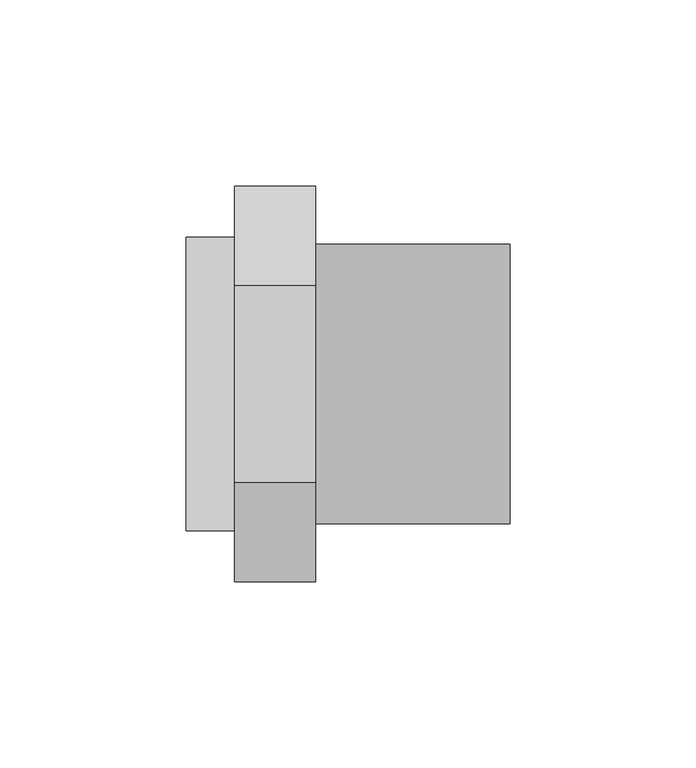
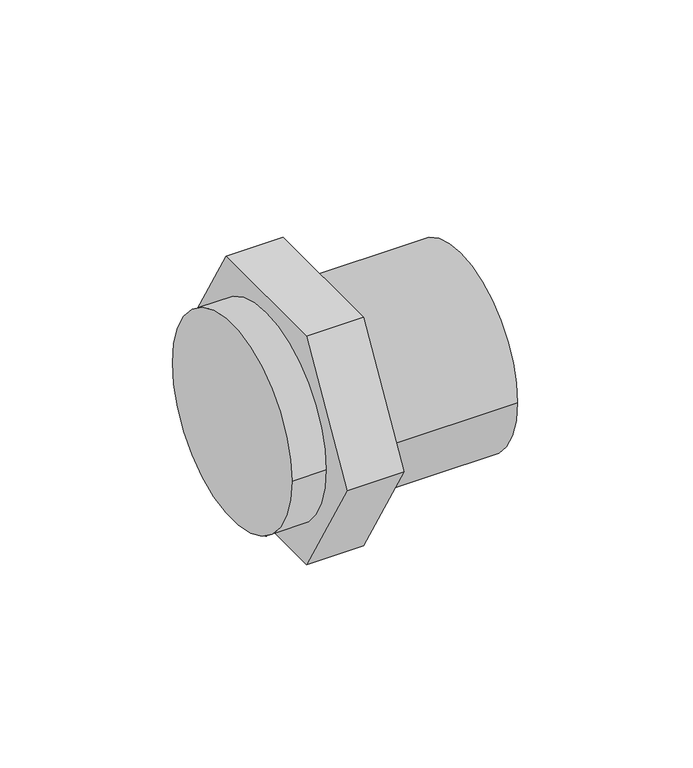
"""IFC4 building model written with IfcOpenShell, lengths in millimetres: pipe fitting geometry, 01101008 : Uniões múltiplas F/M/F."""

import ifcopenshell
import ifcopenshell.guid

model = None  # the IFC model being written
_history = None  # IfcOwnerHistory: only IFC2X3 demands one
_inside = {}  # id of a spatial element -> (the spatial element, [elements in it])
_under = {}  # id of a project, library or spatial element -> (it, [spatial elements below it])
_declared = {}  # id of a project -> (the project, [libraries it declares])
_typed = {}  # id of a type object -> (the type object, [elements of that type])
_made_of = {}  # id of a material, layer set ... -> (it, [elements and type objects made of it])


def new_model(schema):
    """Start an empty IFC model of exactly this schema.

    Asked for "IFC4X3", IfcOpenShell would pick the latest addendum, in which some entities
    have other attributes; the version numbers below select the first issue.
    IFC2X3 requires an IfcOwnerHistory on every rooted entity: one is made here for all.
    """
    global model, _history
    if schema == "IFC4X3":
        model = ifcopenshell.file(schema_version=(4, 3, 0, 0))
    else:
        model = ifcopenshell.file(schema=schema)
    _inside.clear()
    _under.clear()
    _declared.clear()
    _typed.clear()
    _made_of.clear()
    _history = None
    if model.schema == "IFC2X3":
        org = make("IfcOrganization", Name="unknown")
        user = make(
            "IfcPersonAndOrganization",
            ThePerson=make("IfcPerson", FamilyName="unknown"),
            TheOrganization=org,
        )
        app = make(
            "IfcApplication",
            ApplicationDeveloper=org,
            Version="unknown",
            ApplicationFullName="unknown",
            ApplicationIdentifier="unknown",
        )
        _history = make(
            "IfcOwnerHistory",
            OwningUser=user,
            OwningApplication=app,
            ChangeAction="ADDED",
            CreationDate=0,
        )
    return model


def make(cls, **values):
    """One entity of the class cls with the attributes given. An attribute that is None is left unset."""
    return model.create_entity(
        cls, **{name: value for name, value in values.items() if value is not None}
    )


def rooted(cls, **values):
    """An entity with a GlobalId (a new one), such as an element, a storey or a relation."""
    return make(cls, GlobalId=ifcopenshell.guid.new(), OwnerHistory=_history, **values)


def si_unit(unit_type, name, prefix=None):
    """IfcSIUnit, for example si_unit("LENGTHUNIT", "METRE", prefix="MILLI")."""
    return make("IfcSIUnit", UnitType=unit_type, Prefix=prefix, Name=name)


def assignment(units):
    """IfcUnitAssignment: the units of a project."""
    return None if units is None else make("IfcUnitAssignment", Units=units)


def point(xyz):
    """IfcCartesianPoint."""
    return None if xyz is None else make("IfcCartesianPoint", Coordinates=xyz)


def direction(xyz):
    """IfcDirection."""
    return None if xyz is None else make("IfcDirection", DirectionRatios=xyz)


def frame(location, z_axis=None, x_axis=None):
    """IfcAxis2Placement3D, a coordinate frame: its origin and axes. An axis left out is left unset."""
    return make(
        "IfcAxis2Placement3D",
        Location=point(location),
        Axis=direction(z_axis),
        RefDirection=direction(x_axis),
    )


def frame_2d(location, x_axis=None):
    """IfcAxis2Placement2D, a coordinate frame in the plane: its origin and x axis."""
    return make(
        "IfcAxis2Placement2D", Location=point(location), RefDirection=direction(x_axis)
    )


def origin():
    """The frame at (0, 0, 0) with its axes left unset."""
    return frame((0.0, 0.0, 0.0))


def origin_2d():
    """The frame at (0, 0) in the plane with its x axis left unset."""
    return frame_2d((0.0, 0.0))


def place(relative_to, where):
    """IfcLocalPlacement: puts the frame where relative to a parent placement (None: the world)."""
    return make(
        "IfcLocalPlacement", PlacementRelTo=relative_to, RelativePlacement=where
    )


def context(
    kind, dimensions, precision=None, world=None, true_north=None, identifier=None
):
    """IfcGeometricRepresentationContext, for example the 3D "Model" context."""
    return make(
        "IfcGeometricRepresentationContext",
        ContextIdentifier=identifier,
        ContextType=kind,
        CoordinateSpaceDimension=dimensions,
        Precision=precision,
        WorldCoordinateSystem=world,
        TrueNorth=true_north,
    )


def project(units=None, contexts=None):
    """IfcProject with its units and contexts."""
    return rooted(
        "IfcProject",
        Name="project",
        RepresentationContexts=contexts,
        UnitsInContext=assignment(units),
    )


def spatial(cls, under=None, at=None, **own):
    """A site, building, storey or space (cls), placed at a placement, below another one or the project."""
    s = rooted(cls, ObjectPlacement=at, **own)
    if under is not None:
        _under.setdefault(under.id(), (under, []))[1].append(s)
    return s


def polyline(points):
    """IfcPolyline through the points."""
    return make("IfcPolyline", Points=[point(p) for p in points])


def circle_curve(where, radius):
    """IfcCircle in the frame where."""
    return make("IfcCircle", Position=where, Radius=radius)


def trimmed(basis, trim1, trim2, sense, master):
    """IfcTrimmedCurve: the piece of a basis curve between two trims."""
    return make(
        "IfcTrimmedCurve",
        BasisCurve=basis,
        Trim1=trim1,
        Trim2=trim2,
        SenseAgreement=sense,
        MasterRepresentation=master,
    )


def segment(curve, same_sense, transition):
    """IfcCompositeCurveSegment."""
    return make(
        "IfcCompositeCurveSegment",
        Transition=transition,
        SameSense=same_sense,
        ParentCurve=curve,
    )


def composite_curve(segments, self_intersect=None):
    """IfcCompositeCurve: segments joined end to end."""
    return make("IfcCompositeCurve", Segments=segments, SelfIntersect=self_intersect)


def outline(outer, holes=None, kind="AREA"):
    """IfcArbitraryClosedProfileDef: a profile drawn as a closed curve; with holes, ...WithVoids."""
    if holes is None:
        return make("IfcArbitraryClosedProfileDef", ProfileType=kind, OuterCurve=outer)
    return make(
        "IfcArbitraryProfileDefWithVoids",
        ProfileType=kind,
        OuterCurve=outer,
        InnerCurves=holes,
    )


def extrude(swept, where, along, depth):
    """IfcExtrudedAreaSolid: the profile swept, set in the frame where, extruded along a direction by depth."""
    return make(
        "IfcExtrudedAreaSolid",
        SweptArea=swept,
        Position=where,
        ExtrudedDirection=direction(along),
        Depth=depth,
    )


def shape(context_of_items, identifier, shape_type, items):
    """IfcShapeRepresentation: the items that make up one representation, for example the "Body"."""
    return make(
        "IfcShapeRepresentation",
        ContextOfItems=context_of_items,
        RepresentationIdentifier=identifier,
        RepresentationType=shape_type,
        Items=items,
    )


def source(mapping_origin, context_of_items, identifier, shape_type, items):
    """IfcRepresentationMap: a shape defined once, which mapped items show again and again."""
    return make(
        "IfcRepresentationMap",
        MappingOrigin=mapping_origin,
        MappedRepresentation=shape(context_of_items, identifier, shape_type, items),
    )


def transform(
    local_origin,
    x_axis=None,
    y_axis=None,
    z_axis=None,
    scale=None,
    scale2=None,
    scale3=None,
    uniform=True,
):
    """IfcCartesianTransformationOperator3D, or its non-uniform kind. x_axis, y_axis, z_axis: its Axis1, 2, 3."""
    if uniform:
        return make(
            "IfcCartesianTransformationOperator3D",
            Axis1=direction(x_axis),
            Axis2=direction(y_axis),
            LocalOrigin=point(local_origin),
            Scale=scale,
            Axis3=direction(z_axis),
        )
    return make(
        "IfcCartesianTransformationOperator3DnonUniform",
        Axis1=direction(x_axis),
        Axis2=direction(y_axis),
        LocalOrigin=point(local_origin),
        Scale=scale,
        Axis3=direction(z_axis),
        Scale2=scale2,
        Scale3=scale3,
    )


def mapped(mapping_source, mapping_target):
    """IfcMappedItem: shows the shape of a source again, moved by a transform."""
    return make(
        "IfcMappedItem", MappingSource=mapping_source, MappingTarget=mapping_target
    )


def made_of(thing, what):
    """Note that an element or type object is made of a material, layer set ...; save() writes the relation."""
    if what is not None:
        _made_of.setdefault(what.id(), (what, []))[1].append(thing)
    return thing


def element(
    cls,
    number,
    at=None,
    inside=None,
    cuts=None,
    type_object=None,
    material=None,
    context=None,
    identifier="Body",
    shape_type=None,
    held_by="IfcProductDefinitionShape",
    body=None,
    shapes=None,
    **own,
):
    """One element of the class cls, such as IfcWall. Its Tag is "e" and its number.

    at: its placement. inside: the storey or other place that contains it. cuts: it is an
    opening in that element (IfcRelVoidsElement). A single representation is given by context,
    identifier, shape_type and body (its items); several are given by shapes. held_by: the class
    of the entity that holds the representations. save() writes the other relations.
    """
    e = rooted(cls, Tag="e%d" % number, ObjectPlacement=at, **own)
    if body is not None:
        shapes = [shape(context, identifier, shape_type, body)]
    if shapes is not None:
        e.Representation = make(held_by, Representations=shapes)
    if inside is not None:
        _inside.setdefault(inside.id(), (inside, []))[1].append(e)
    if cuts is not None:
        rooted(
            "IfcRelVoidsElement", RelatingBuildingElement=cuts, RelatedOpeningElement=e
        )
    if type_object is not None:
        _typed.setdefault(type_object.id(), (type_object, []))[1].append(e)
    return made_of(e, material)


def aggregate(whole, parts):
    """IfcRelAggregates: a whole, such as a stair, and the parts it consists of."""
    return rooted("IfcRelAggregates", RelatingObject=whole, RelatedObjects=parts)


def save(model, path):
    """Write the relations noted so far, then the file.

    IfcRelAggregates (storeys below a building ...), IfcRelContainedInSpatialStructure (elements
    in a storey), IfcRelDefinesByType, IfcRelAssociatesMaterial and IfcRelDeclares: one each for
    every whole, place, type object, material and project.
    """
    for whole, parts in _under.values():
        aggregate(whole, parts)
    for where, things in _inside.values():
        rooted(
            "IfcRelContainedInSpatialStructure",
            RelatedElements=things,
            RelatingStructure=where,
        )
    for kind, things in _typed.values():
        rooted("IfcRelDefinesByType", RelatedObjects=things, RelatingType=kind)
    for what, things in _made_of.values():
        rooted("IfcRelAssociatesMaterial", RelatedObjects=things, RelatingMaterial=what)
    for by, libraries in _declared.values():
        rooted("IfcRelDeclares", RelatingContext=by, RelatedDefinitions=libraries)
    model.write(path)


def pipe_fitting_1410e5f4(model_context):
    return source(origin(), model_context, "Body", "SweptSolid", [
        extrude(outline(composite_curve([segment(trimmed(circle_curve(origin_2d(), 39.375), [point((39.375, 0.0))], [point((-39.375, 0.0))], False, "CARTESIAN"), True, "CONTINUOUS"), segment(trimmed(circle_curve(origin_2d(), 39.375), [point((-39.375, 0.0))], [point((39.375, 0.0))], False, "CARTESIAN"), True, "CONTINUOUS")], self_intersect=False)), frame((0.0, 0.0, 0.0), z_axis=(1.0, 0.0, 0.0), x_axis=(0.0, 1.0, 0.0)), (0.0, 0.0, 1.0), 13.0),
        extrude(outline(polyline([(-26.5581124, 46.0), (26.5581124, 46.0), (53.1162248, 0.0), (26.5581124, -46.0), (-26.5581124, -46.0), (-53.1162248, 0.0), (-26.5581124, 46.0)])), frame((13.0, 0.0, 0.0), z_axis=(1.0, 0.0, 0.0), x_axis=(0.0, 1.0, 0.0)), (0.0, 0.0, 1.0), 21.75),
        extrude(outline(composite_curve([segment(trimmed(circle_curve(origin_2d(), 37.5), [point((-37.5, 0.0))], [point((37.5, 0.0))], False, "CARTESIAN"), True, "CONTINUOUS"), segment(trimmed(circle_curve(origin_2d(), 37.5), [point((37.5, 0.0))], [point((-37.5, 0.0))], False, "CARTESIAN"), True, "CONTINUOUS")], self_intersect=False)), frame((34.75, 0.0, 0.0), z_axis=(1.0, 0.0, 0.0), x_axis=(0.0, 1.0, 0.0)), (0.0, 0.0, 1.0), 52.25),
    ])


if __name__ == "__main__":
    model = new_model("IFC4")
    model_context = context("Model", 3, world=origin())
    ifc_project = project(units=[si_unit("LENGTHUNIT", "METRE", prefix="MILLI")], contexts=[model_context])
    site = spatial("IfcSite", under=ifc_project)
    building = spatial("IfcBuilding", under=site)
    placement = place(None, origin())
    pipe_fitting_shape = pipe_fitting_1410e5f4(model_context)
    element("IfcPipeFitting", 1, ObjectType="01101008 : Uniões múltiplas F/M/F", at=placement, inside=building, context=model_context, shape_type="MappedRepresentation", body=[
        mapped(pipe_fitting_shape, transform((0.0, 0.0, 0.0), x_axis=(1.0, 0.0, 0.0), y_axis=(0.0, 1.0, 0.0), z_axis=(0.0, 0.0, 1.0))),
    ])
    save(model, "model.ifc")
